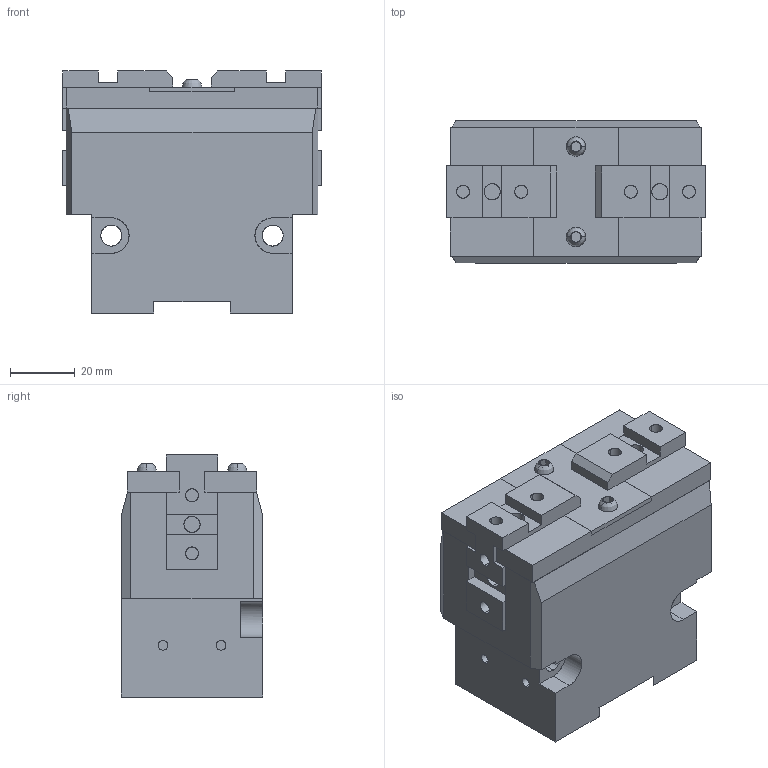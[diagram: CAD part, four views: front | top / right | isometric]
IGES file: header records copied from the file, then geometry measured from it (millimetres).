
Global section: file name: C:\Documents and Settings\Administrateur\Mes documents\OPE-80-SX-CLOSED.igs; native system: AutoCAD-16.0s (LMS Tech) (Microsoft Windows NT Version 5.1 (x86)); preprocessor: Autodesk IGES Translator Mechanical Desktop.R7.0.43.0 (Mar 18 2003) from Autodesk, Inc.; date: 20050628.200630; units: millimetre
Bounding box: 80 x 44 x 75 mm (x, y, z)
Surface area: 49851.8 mm2 (no closed solid volume)
Topology: 0 solids, 0 shells, 243 faces, 2502 edges, 2587 vertices
Faces by surface type: bspline 243
